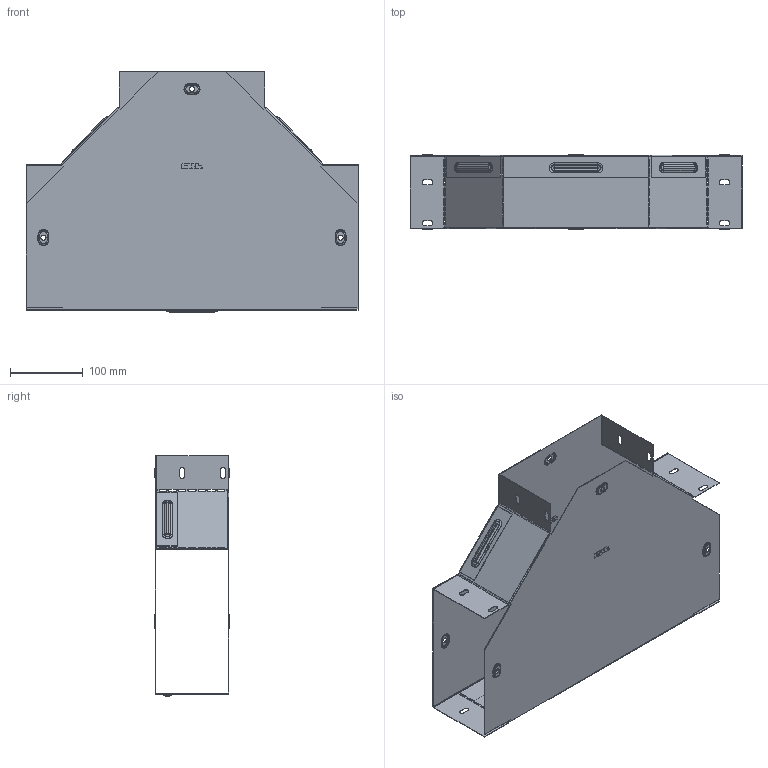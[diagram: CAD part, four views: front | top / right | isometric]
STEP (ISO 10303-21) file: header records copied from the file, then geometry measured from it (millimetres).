
FILE_DESCRIPTION (( 'STEP AP214' ), '1' );
FILE_NAME ('t10020008_捘.STEP', '2019-06-10T08:08:33', ( '砐錪賧瘔蠈錪 Windows' ), ( '' ), 'SwSTEP 2.0', 'SolidWorks 2018', '' );
FILE_SCHEMA (( 'AUTOMOTIVE_DESIGN' ));
Length unit declared in the file: millimetre
Products named in the file (1): t10020008_捘
Bounding box: 456.4 x 103.8 x 331 mm (x, y, z)
Volume: 272745.2 mm3; surface area: 686590.8 mm2
Topology: 2 solids, 2 shells, 780 faces, 2280 edges, 1484 vertices
Faces by surface type: plane 442, cylinder 224, torus 96, bspline 18
Entity records: 26969 total; most frequent: CARTESIAN_POINT 5625, ORIENTED_EDGE 4560, DIRECTION 4362, EDGE_CURVE 2280, VECTOR 1652, LINE 1652, VERTEX_POINT 1484, AXIS2_PLACEMENT_3D 1355
